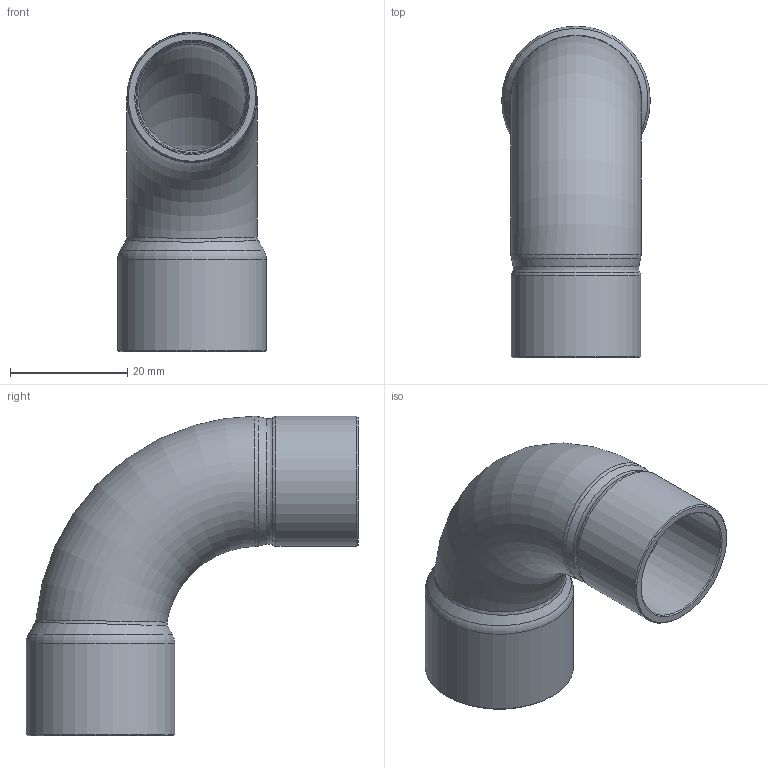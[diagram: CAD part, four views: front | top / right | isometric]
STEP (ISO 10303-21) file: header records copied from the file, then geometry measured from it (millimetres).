
FILE_DESCRIPTION((''),'2;1');
FILE_NAME('G:\SANHA-Ternat\Technik\Management\Bouwmaten + markeringen\z-maattekeningen 3D\29000s\29000s_gem\29002AR7834_gem.stp','2020-03-27T09:06:37',('vdvijverd'),(''),'Autodesk Inventor 2009','Autodesk Inventor 2009','');
FILE_SCHEMA(('AUTOMOTIVE_DESIGN { 1 0 10303 214 1 1 1 1 }'));
Length unit declared in the file: millimetre
Products named in the file (1): 29002AR7834_gem
Bounding box: 25.38 x 56.65 x 54.51 mm (x, y, z)
Volume: 7721.5 mm3; surface area: 10467.4 mm2
Topology: 1 solids, 1 shells, 25 faces, 52 edges, 29 vertices
Faces by surface type: cone 8, bspline 6, torus 5, cylinder 4, plane 2
Full cylindrical faces by diameter (mm): 19.17 x1, 22.17 x1, 22.375 x1, 25.375 x1
Entity records: 1660 total; most frequent: CARTESIAN_POINT 1229, DIRECTION 82, ORIENTED_EDGE 56, EDGE_LOOP 47, AXIS2_PLACEMENT_3D 41, EDGE_CURVE 28, VERTEX_POINT 25, FACE_OUTER_BOUND 25
